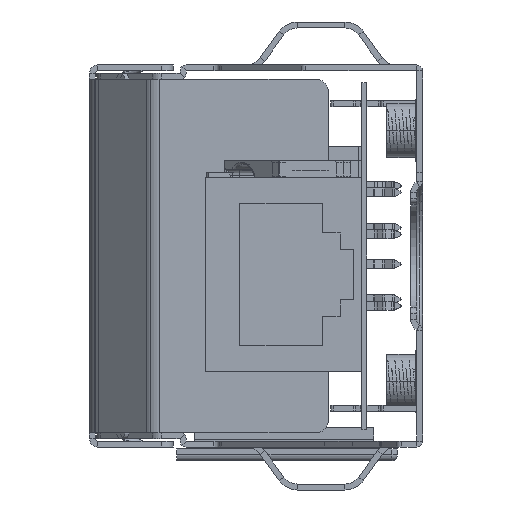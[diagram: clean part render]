
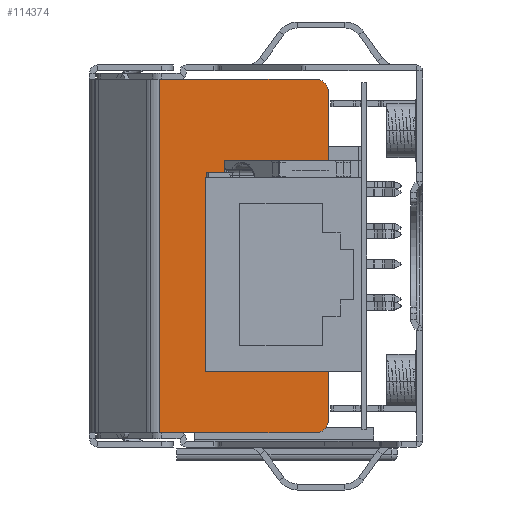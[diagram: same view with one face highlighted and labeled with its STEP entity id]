
A CAD part, left-side view. The second image highlights one B-rep face of the part: STEP entity #114374.
In plain terms, the highlighted planar face has unit normal (-1, 0, 0).
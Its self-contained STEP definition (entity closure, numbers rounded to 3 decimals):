
#3116 = VECTOR ( 'NONE', #9346, 1000. ) ;
#5143 = LINE ( 'NONE', #13917, #16496 ) ;
#7397 = VERTEX_POINT ( 'NONE', #138413 ) ;
#7558 = CARTESIAN_POINT ( 'NONE',  ( 44.868, 22.171, -5.328 ) ) ;
#8153 = VERTEX_POINT ( 'NONE', #106981 ) ;
#9346 = DIRECTION ( 'NONE',  ( 0., 0., 1. ) ) ;
#12590 = DIRECTION ( 'NONE',  ( 1., 0., 0. ) ) ;
#13917 = CARTESIAN_POINT ( 'NONE',  ( 44.868, 9.025, -5.328 ) ) ;
#16496 = VECTOR ( 'NONE', #138830, 1000. ) ;
#18897 = CARTESIAN_POINT ( 'NONE',  ( 44.868, 8.025, -33.928 ) ) ;
#22039 = CARTESIAN_POINT ( 'NONE',  ( 44.868, 9.025, -5.328 ) ) ;
#24089 = CARTESIAN_POINT ( 'NONE',  ( 44.868, 9.025, -6.328 ) ) ;
#27555 = EDGE_CURVE ( 'NONE', #52880, #8153, #100186, .T. ) ;
#28028 = DIRECTION ( 'NONE',  ( 1., 0., 0. ) ) ;
#33891 = LINE ( 'NONE', #35370, #38455 ) ;
#35370 = CARTESIAN_POINT ( 'NONE',  ( 44.868, 22.171, -34.928 ) ) ;
#36242 = CIRCLE ( 'NONE', #115676, 1. ) ;
#38455 = VECTOR ( 'NONE', #79829, 1000. ) ;
#46301 = ORIENTED_EDGE ( 'NONE', *, *, #87543, .T. ) ;
#49487 = CARTESIAN_POINT ( 'NONE',  ( 44.868, 9.025, -34.928 ) ) ;
#52525 = ORIENTED_EDGE ( 'NONE', *, *, #111151, .T. ) ;
#52880 = VERTEX_POINT ( 'NONE', #22039 ) ;
#55956 = EDGE_CURVE ( 'NONE', #52880, #7397, #5143, .T. ) ;
#59838 = EDGE_CURVE ( 'NONE', #7397, #106767, #108338, .T. ) ;
#62316 = FACE_OUTER_BOUND ( 'NONE', #136603, .T. ) ;
#62688 = VERTEX_POINT ( 'NONE', #140772 ) ;
#74662 = DIRECTION ( 'NONE',  ( 0., 0., -1. ) ) ;
#79829 = DIRECTION ( 'NONE',  ( 0., -1., 0. ) ) ;
#86826 = ORIENTED_EDGE ( 'NONE', *, *, #27555, .F. ) ;
#87543 = EDGE_CURVE ( 'NONE', #106767, #121703, #33891, .T. ) ;
#88624 = EDGE_CURVE ( 'NONE', #62688, #121703, #36242, .T. ) ;
#89758 = DIRECTION ( 'NONE',  ( 1., 0., 0. ) ) ;
#91383 = DIRECTION ( 'NONE',  ( 0., -1., 0. ) ) ;
#92851 = CARTESIAN_POINT ( 'NONE',  ( 44.868, 9.025, -33.928 ) ) ;
#94440 = CARTESIAN_POINT ( 'NONE',  ( 44.868, 22.792, -12.361 ) ) ;
#95517 = ORIENTED_EDGE ( 'NONE', *, *, #88624, .F. ) ;
#95899 = DIRECTION ( 'NONE',  ( 0., 1., 0. ) ) ;
#100186 = CIRCLE ( 'NONE', #114346, 1. ) ;
#106767 = VERTEX_POINT ( 'NONE', #125762 ) ;
#106981 = CARTESIAN_POINT ( 'NONE',  ( 44.868, 8.025, -6.328 ) ) ;
#107293 = ORIENTED_EDGE ( 'NONE', *, *, #55956, .T. ) ;
#108000 = LINE ( 'NONE', #18897, #3116 ) ;
#108338 = LINE ( 'NONE', #7558, #111507 ) ;
#111151 = EDGE_CURVE ( 'NONE', #62688, #8153, #108000, .T. ) ;
#111507 = VECTOR ( 'NONE', #74662, 1000. ) ;
#114346 = AXIS2_PLACEMENT_3D ( 'NONE', #24089, #89758, #143913 ) ;
#114374 = ADVANCED_FACE ( 'NONE', ( #62316 ), #116481, .F. ) ;
#115676 = AXIS2_PLACEMENT_3D ( 'NONE', #92851, #12590, #91383 ) ;
#116481 = PLANE ( 'NONE',  #125256 ) ;
#121703 = VERTEX_POINT ( 'NONE', #49487 ) ;
#125256 = AXIS2_PLACEMENT_3D ( 'NONE', #94440, #28028, #95899 ) ;
#125762 = CARTESIAN_POINT ( 'NONE',  ( 44.868, 22.171, -34.928 ) ) ;
#136603 = EDGE_LOOP ( 'NONE', ( #107293, #139480, #46301, #95517, #52525, #86826 ) ) ;
#138413 = CARTESIAN_POINT ( 'NONE',  ( 44.868, 22.171, -5.328 ) ) ;
#138830 = DIRECTION ( 'NONE',  ( 0., 1., 0. ) ) ;
#139480 = ORIENTED_EDGE ( 'NONE', *, *, #59838, .T. ) ;
#140772 = CARTESIAN_POINT ( 'NONE',  ( 44.868, 8.025, -33.928 ) ) ;
#143913 = DIRECTION ( 'NONE',  ( 0., 0., 1. ) ) ;
